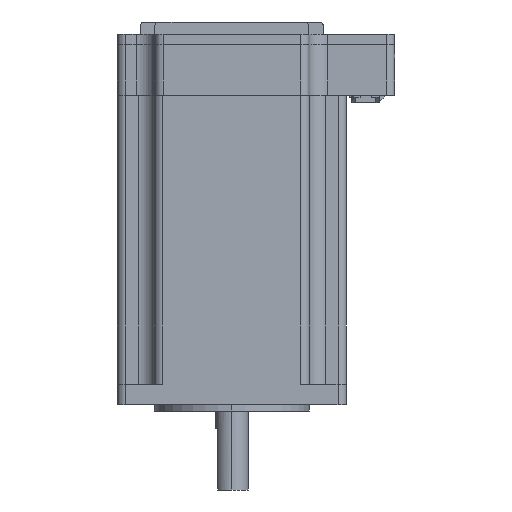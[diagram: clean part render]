
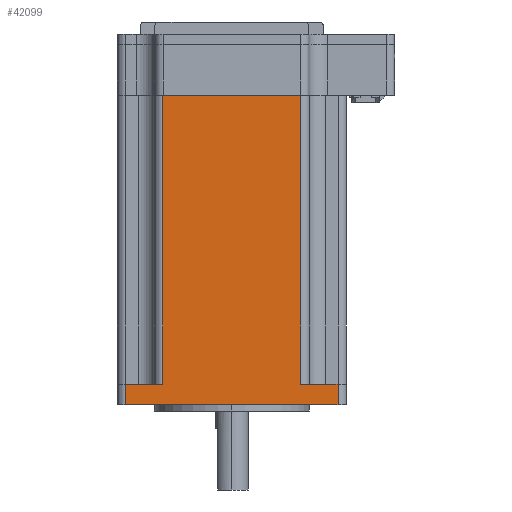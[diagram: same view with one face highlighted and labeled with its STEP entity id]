
A CAD part, left-side view. The second image highlights one B-rep face of the part: STEP entity #42099.
In plain terms, the highlighted planar face has unit normal (-1, 0, 0) as drawn and (1, 0, 0) by its records, which use the part's own axes.
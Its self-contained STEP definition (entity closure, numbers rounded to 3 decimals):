
#995 = DIRECTION ( 'NONE',  ( 0., 0., 1. ) ) ;
#4143 = PLANE ( 'NONE',  #22553 ) ;
#4601 = VERTEX_POINT ( 'NONE', #86984 ) ;
#4623 = EDGE_CURVE ( 'NONE', #19956, #16767, #28849, .T. ) ;
#4673 = DIRECTION ( 'NONE',  ( -1., 0., 0. ) ) ;
#4841 = LINE ( 'NONE', #63479, #67622 ) ;
#6866 = CARTESIAN_POINT ( 'NONE',  ( 28.1, 17., 0. ) ) ;
#8329 = ORIENTED_EDGE ( 'NONE', *, *, #106428, .F. ) ;
#12203 = VERTEX_POINT ( 'NONE', #99795 ) ;
#12406 = DIRECTION ( 'NONE',  ( 0., -1., 0. ) ) ;
#14442 = VERTEX_POINT ( 'NONE', #36989 ) ;
#14495 = VECTOR ( 'NONE', #35735, 1000. ) ;
#16767 = VERTEX_POINT ( 'NONE', #44613 ) ;
#18336 = CARTESIAN_POINT ( 'NONE',  ( 28.1, 17., -71. ) ) ;
#19956 = VERTEX_POINT ( 'NONE', #49346 ) ;
#20299 = EDGE_CURVE ( 'NONE', #40137, #12203, #66304, .T. ) ;
#22536 = DIRECTION ( 'NONE',  ( 0., 1., 0. ) ) ;
#22553 = AXIS2_PLACEMENT_3D ( 'NONE', #96643, #4673, #89391 ) ;
#22930 = LINE ( 'NONE', #82123, #44874 ) ;
#23638 = CARTESIAN_POINT ( 'NONE',  ( 28.1, -26.1, 0. ) ) ;
#25364 = VECTOR ( 'NONE', #12406, 1000. ) ;
#28729 = VECTOR ( 'NONE', #44385, 1000. ) ;
#28849 = LINE ( 'NONE', #105309, #28729 ) ;
#29229 = ORIENTED_EDGE ( 'NONE', *, *, #57651, .F. ) ;
#31228 = DIRECTION ( 'NONE',  ( 0., 1., 0. ) ) ;
#33751 = DIRECTION ( 'NONE',  ( 0., 0., 1. ) ) ;
#35735 = DIRECTION ( 'NONE',  ( 0., 0., -1. ) ) ;
#36231 = VERTEX_POINT ( 'NONE', #43218 ) ;
#36989 = CARTESIAN_POINT ( 'NONE',  ( 28.1, -26.1, 5. ) ) ;
#38400 = FACE_OUTER_BOUND ( 'NONE', #88208, .T. ) ;
#39820 = ORIENTED_EDGE ( 'NONE', *, *, #20299, .F. ) ;
#40137 = VERTEX_POINT ( 'NONE', #42170 ) ;
#42099 = ADVANCED_FACE ( 'NONE', ( #38400 ), #4143, .F. ) ;
#42170 = CARTESIAN_POINT ( 'NONE',  ( 28.1, -17., -71. ) ) ;
#43032 = EDGE_CURVE ( 'NONE', #82075, #16767, #55160, .T. ) ;
#43218 = CARTESIAN_POINT ( 'NONE',  ( 28.1, 17., -71. ) ) ;
#44385 = DIRECTION ( 'NONE',  ( 0., 0., -1. ) ) ;
#44613 = CARTESIAN_POINT ( 'NONE',  ( 28.1, 26.1, 0. ) ) ;
#44874 = VECTOR ( 'NONE', #31228, 1000. ) ;
#45904 = EDGE_CURVE ( 'NONE', #36231, #82075, #77449, .T. ) ;
#49346 = CARTESIAN_POINT ( 'NONE',  ( 28.1, 26.1, 5. ) ) ;
#55160 = LINE ( 'NONE', #23638, #81150 ) ;
#55447 = ORIENTED_EDGE ( 'NONE', *, *, #4623, .F. ) ;
#57651 = EDGE_CURVE ( 'NONE', #36231, #40137, #72509, .T. ) ;
#58152 = EDGE_CURVE ( 'NONE', #4601, #12203, #4841, .T. ) ;
#60788 = ORIENTED_EDGE ( 'NONE', *, *, #65144, .T. ) ;
#63479 = CARTESIAN_POINT ( 'NONE',  ( 28.1, -26.1, 0. ) ) ;
#65144 = EDGE_CURVE ( 'NONE', #14442, #4601, #95615, .T. ) ;
#66304 = LINE ( 'NONE', #101886, #98243 ) ;
#67622 = VECTOR ( 'NONE', #95730, 1000. ) ;
#69553 = ORIENTED_EDGE ( 'NONE', *, *, #45904, .T. ) ;
#71988 = CARTESIAN_POINT ( 'NONE',  ( 28.1, -17., -71. ) ) ;
#72509 = LINE ( 'NONE', #71988, #25364 ) ;
#75438 = ORIENTED_EDGE ( 'NONE', *, *, #43032, .T. ) ;
#77449 = LINE ( 'NONE', #18336, #94373 ) ;
#79430 = CARTESIAN_POINT ( 'NONE',  ( 28.1, -26.1, 5. ) ) ;
#81150 = VECTOR ( 'NONE', #22536, 1000. ) ;
#82075 = VERTEX_POINT ( 'NONE', #6866 ) ;
#82123 = CARTESIAN_POINT ( 'NONE',  ( 28.1, -26.1, 5. ) ) ;
#86984 = CARTESIAN_POINT ( 'NONE',  ( 28.1, -26.1, 0. ) ) ;
#88208 = EDGE_LOOP ( 'NONE', ( #89597, #39820, #29229, #69553, #75438, #55447, #8329, #60788 ) ) ;
#89391 = DIRECTION ( 'NONE',  ( 0., 0., 1. ) ) ;
#89597 = ORIENTED_EDGE ( 'NONE', *, *, #58152, .T. ) ;
#94373 = VECTOR ( 'NONE', #33751, 1000. ) ;
#95615 = LINE ( 'NONE', #79430, #14495 ) ;
#95730 = DIRECTION ( 'NONE',  ( 0., 1., 0. ) ) ;
#96643 = CARTESIAN_POINT ( 'NONE',  ( 28.1, -26.1, 5. ) ) ;
#98243 = VECTOR ( 'NONE', #995, 1000. ) ;
#99795 = CARTESIAN_POINT ( 'NONE',  ( 28.1, -17., 0. ) ) ;
#101886 = CARTESIAN_POINT ( 'NONE',  ( 28.1, -17., -71. ) ) ;
#105309 = CARTESIAN_POINT ( 'NONE',  ( 28.1, 26.1, 5. ) ) ;
#106428 = EDGE_CURVE ( 'NONE', #14442, #19956, #22930, .T. ) ;
